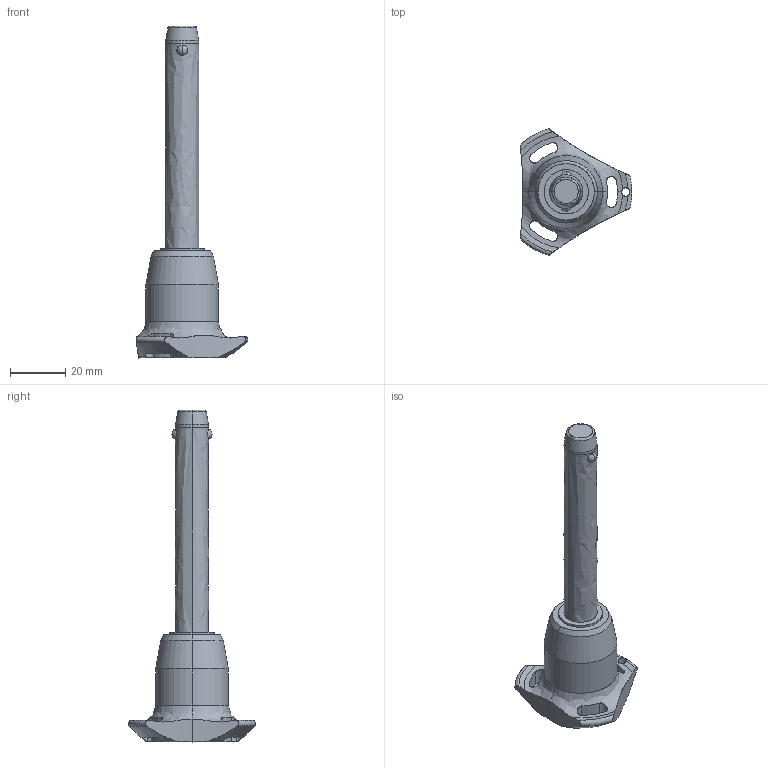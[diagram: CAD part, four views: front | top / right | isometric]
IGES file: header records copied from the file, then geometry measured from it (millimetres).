
Start section: SolidWorks IGES file using analytic representation for surfaces
Global section: file name: C:\Users\ianosborn\Desktop\33060_v2\33060.BK_v2_20240910_IGES\33060.W0874.igs; native system: SolidWorks 2019; preprocessor: SolidWorks 2019; author: IanOsborn; date: 240910.201604; units: millimetre
Bounding box: 40.5 x 45.88 x 120.3 mm (x, y, z)
Surface area: 8976.8 mm2 (no closed solid volume)
Topology: 0 solids, 0 shells, 68 faces, 1435 edges, 1431 vertices
Faces by surface type: revolution 52, bspline 16
